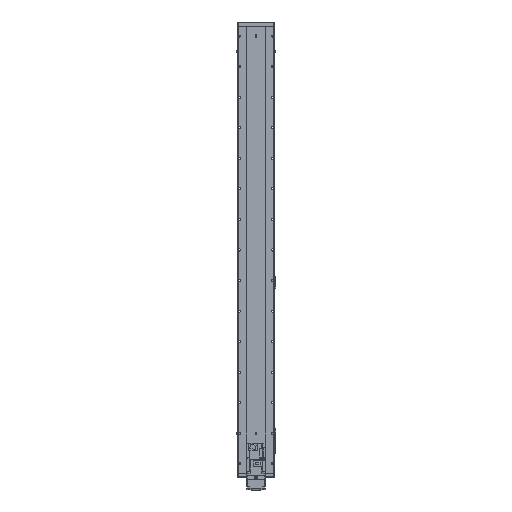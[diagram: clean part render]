
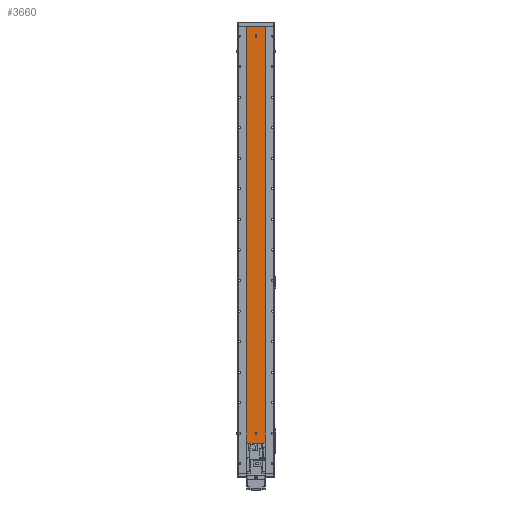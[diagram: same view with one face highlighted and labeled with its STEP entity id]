
A CAD part, front view. The second image highlights one B-rep face of the part: STEP entity #3660.
In plain terms, the highlighted planar face has unit normal (0, -1, 0).
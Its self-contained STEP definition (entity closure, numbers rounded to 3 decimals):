
#94 = EDGE_LOOP ( 'NONE', ( #7472, #35458, #7275, #41760 ) ) ;
#342 = VERTEX_POINT ( 'NONE', #49536 ) ;
#2175 = CARTESIAN_POINT ( 'NONE',  ( 0., 1., 1429. ) ) ;
#2260 = CARTESIAN_POINT ( 'NONE',  ( 0., 1., 130. ) ) ;
#2444 = CARTESIAN_POINT ( 'NONE',  ( 3., 1., 1431. ) ) ;
#2828 = ORIENTED_EDGE ( 'NONE', *, *, #40159, .F. ) ;
#2858 = DIRECTION ( 'NONE',  ( 0., 1., 0. ) ) ;
#3660 = ADVANCED_FACE ( 'NONE', ( #65561, #3954, #33634, #15956 ), #12674, .F. ) ;
#3954 = FACE_BOUND ( 'NONE', #27659, .T. ) ;
#4033 = CARTESIAN_POINT ( 'NONE',  ( -30., 1., 1461. ) ) ;
#4296 = DIRECTION ( 'NONE',  ( 0., -1., 0. ) ) ;
#4476 = DIRECTION ( 'NONE',  ( 0., 0., -1. ) ) ;
#4571 = EDGE_CURVE ( 'NONE', #342, #59576, #23422, .T. ) ;
#5074 = VERTEX_POINT ( 'NONE', #49666 ) ;
#6154 = ORIENTED_EDGE ( 'NONE', *, *, #25433, .F. ) ;
#6650 = CARTESIAN_POINT ( 'NONE',  ( -30., 1., 0. ) ) ;
#6824 = DIRECTION ( 'NONE',  ( 0., 0., -1. ) ) ;
#6912 = VECTOR ( 'NONE', #57232, 1000. ) ;
#7032 = CARTESIAN_POINT ( 'NONE',  ( 30., 1., 1461. ) ) ;
#7082 = AXIS2_PLACEMENT_3D ( 'NONE', #9269, #45354, #66092 ) ;
#7275 = ORIENTED_EDGE ( 'NONE', *, *, #22181, .F. ) ;
#7328 = DIRECTION ( 'NONE',  ( 0., 0., -1. ) ) ;
#7472 = ORIENTED_EDGE ( 'NONE', *, *, #43617, .T. ) ;
#7950 = VERTEX_POINT ( 'NONE', #8039 ) ;
#8039 = CARTESIAN_POINT ( 'NONE',  ( -30., 1., 0. ) ) ;
#8150 = LINE ( 'NONE', #40948, #34723 ) ;
#9269 = CARTESIAN_POINT ( 'NONE',  ( 0., 1., 1429. ) ) ;
#9577 = EDGE_CURVE ( 'NONE', #37982, #33258, #8150, .T. ) ;
#9859 = CARTESIAN_POINT ( 'NONE',  ( 0., 1., 130. ) ) ;
#10232 = DIRECTION ( 'NONE',  ( 0., 0., 1. ) ) ;
#10335 = VECTOR ( 'NONE', #4476, 1000. ) ;
#11483 = ORIENTED_EDGE ( 'NONE', *, *, #55503, .F. ) ;
#12300 = VERTEX_POINT ( 'NONE', #65082 ) ;
#12674 = PLANE ( 'NONE',  #46772 ) ;
#12809 = CIRCLE ( 'NONE', #19300, 3. ) ;
#12924 = DIRECTION ( 'NONE',  ( 0., -1., 0. ) ) ;
#14208 = AXIS2_PLACEMENT_3D ( 'NONE', #9859, #4296, #40351 ) ;
#15804 = EDGE_CURVE ( 'NONE', #33258, #12300, #26462, .T. ) ;
#15956 = FACE_OUTER_BOUND ( 'NONE', #94, .T. ) ;
#17015 = VERTEX_POINT ( 'NONE', #42368 ) ;
#17990 = DIRECTION ( 'NONE',  ( 0., -1., 0. ) ) ;
#18921 = CIRCLE ( 'NONE', #32273, 3. ) ;
#19300 = AXIS2_PLACEMENT_3D ( 'NONE', #2175, #12924, #7328 ) ;
#20481 = ORIENTED_EDGE ( 'NONE', *, *, #57199, .F. ) ;
#22181 = EDGE_CURVE ( 'NONE', #17015, #5074, #25554, .T. ) ;
#22276 = CARTESIAN_POINT ( 'NONE',  ( -3., 1., 1429. ) ) ;
#22635 = DIRECTION ( 'NONE',  ( 0., 0., -1. ) ) ;
#22975 = CARTESIAN_POINT ( 'NONE',  ( 0., 1., 33. ) ) ;
#23328 = VERTEX_POINT ( 'NONE', #22975 ) ;
#23422 = CIRCLE ( 'NONE', #14208, 3. ) ;
#24876 = DIRECTION ( 'NONE',  ( 1., 0., 0. ) ) ;
#25059 = CARTESIAN_POINT ( 'NONE',  ( 0., 1., 127. ) ) ;
#25433 = EDGE_CURVE ( 'NONE', #59576, #342, #40942, .T. ) ;
#25516 = CARTESIAN_POINT ( 'NONE',  ( 0., 1., 27. ) ) ;
#25554 = LINE ( 'NONE', #64863, #44730 ) ;
#25639 = LINE ( 'NONE', #4033, #10335 ) ;
#26462 = CIRCLE ( 'NONE', #28473, 3. ) ;
#27659 = EDGE_LOOP ( 'NONE', ( #6154, #48407 ) ) ;
#28029 = CARTESIAN_POINT ( 'NONE',  ( 30., 1., 0. ) ) ;
#28473 = AXIS2_PLACEMENT_3D ( 'NONE', #32099, #57298, #42124 ) ;
#29431 = CARTESIAN_POINT ( 'NONE',  ( 0., 1., 30. ) ) ;
#30859 = LINE ( 'NONE', #7032, #61933 ) ;
#31373 = VECTOR ( 'NONE', #49514, 1000. ) ;
#32099 = CARTESIAN_POINT ( 'NONE',  ( 0., 1., 1431. ) ) ;
#32273 = AXIS2_PLACEMENT_3D ( 'NONE', #29431, #33911, #34569 ) ;
#33258 = VERTEX_POINT ( 'NONE', #2444 ) ;
#33474 = EDGE_LOOP ( 'NONE', ( #50483, #62305, #20481, #47309, #50673 ) ) ;
#33574 = CARTESIAN_POINT ( 'NONE',  ( -30., 1., 1461. ) ) ;
#33634 = FACE_BOUND ( 'NONE', #64005, .T. ) ;
#33911 = DIRECTION ( 'NONE',  ( 0., -1., 0. ) ) ;
#33919 = CARTESIAN_POINT ( 'NONE',  ( -3., 1., 1429. ) ) ;
#34569 = DIRECTION ( 'NONE',  ( 0., 0., -1. ) ) ;
#34723 = VECTOR ( 'NONE', #10232, 1000. ) ;
#35458 = ORIENTED_EDGE ( 'NONE', *, *, #48119, .F. ) ;
#37646 = DIRECTION ( 'NONE',  ( 0., -1., 0. ) ) ;
#37710 = EDGE_CURVE ( 'NONE', #12300, #64321, #39386, .T. ) ;
#37982 = VERTEX_POINT ( 'NONE', #53619 ) ;
#38054 = DIRECTION ( 'NONE',  ( 0., 0., 1. ) ) ;
#38594 = EDGE_CURVE ( 'NONE', #17015, #7950, #25639, .T. ) ;
#39386 = LINE ( 'NONE', #33919, #31373 ) ;
#40159 = EDGE_CURVE ( 'NONE', #49945, #23328, #18921, .T. ) ;
#40351 = DIRECTION ( 'NONE',  ( 0., 0., -1. ) ) ;
#40942 = CIRCLE ( 'NONE', #62818, 3. ) ;
#40948 = CARTESIAN_POINT ( 'NONE',  ( 3., 1., 1429. ) ) ;
#41760 = ORIENTED_EDGE ( 'NONE', *, *, #38594, .T. ) ;
#42124 = DIRECTION ( 'NONE',  ( 0., 0., -1. ) ) ;
#42368 = CARTESIAN_POINT ( 'NONE',  ( -30., 1., 1461. ) ) ;
#43617 = EDGE_CURVE ( 'NONE', #7950, #45882, #55799, .T. ) ;
#44730 = VECTOR ( 'NONE', #24876, 1000. ) ;
#45354 = DIRECTION ( 'NONE',  ( 0., -1., 0. ) ) ;
#45882 = VERTEX_POINT ( 'NONE', #28029 ) ;
#46772 = AXIS2_PLACEMENT_3D ( 'NONE', #33574, #2858, #38054 ) ;
#47309 = ORIENTED_EDGE ( 'NONE', *, *, #37710, .F. ) ;
#48119 = EDGE_CURVE ( 'NONE', #5074, #45882, #30859, .T. ) ;
#48407 = ORIENTED_EDGE ( 'NONE', *, *, #4571, .F. ) ;
#48978 = VERTEX_POINT ( 'NONE', #59217 ) ;
#49514 = DIRECTION ( 'NONE',  ( 0., 0., -1. ) ) ;
#49536 = CARTESIAN_POINT ( 'NONE',  ( 0., 1., 133. ) ) ;
#49666 = CARTESIAN_POINT ( 'NONE',  ( 30., 1., 1461. ) ) ;
#49945 = VERTEX_POINT ( 'NONE', #25516 ) ;
#50094 = AXIS2_PLACEMENT_3D ( 'NONE', #57954, #37646, #22635 ) ;
#50483 = ORIENTED_EDGE ( 'NONE', *, *, #9577, .F. ) ;
#50673 = ORIENTED_EDGE ( 'NONE', *, *, #15804, .F. ) ;
#53619 = CARTESIAN_POINT ( 'NONE',  ( 3., 1., 1429. ) ) ;
#54579 = EDGE_CURVE ( 'NONE', #48978, #37982, #57083, .T. ) ;
#55503 = EDGE_CURVE ( 'NONE', #23328, #49945, #59398, .T. ) ;
#55799 = LINE ( 'NONE', #6650, #6912 ) ;
#57083 = CIRCLE ( 'NONE', #7082, 3. ) ;
#57199 = EDGE_CURVE ( 'NONE', #64321, #48978, #12809, .T. ) ;
#57232 = DIRECTION ( 'NONE',  ( 1., 0., 0. ) ) ;
#57298 = DIRECTION ( 'NONE',  ( 0., -1., 0. ) ) ;
#57954 = CARTESIAN_POINT ( 'NONE',  ( 0., 1., 30. ) ) ;
#59217 = CARTESIAN_POINT ( 'NONE',  ( 0., 1., 1426. ) ) ;
#59398 = CIRCLE ( 'NONE', #50094, 3. ) ;
#59576 = VERTEX_POINT ( 'NONE', #25059 ) ;
#61933 = VECTOR ( 'NONE', #6824, 1000. ) ;
#62305 = ORIENTED_EDGE ( 'NONE', *, *, #54579, .F. ) ;
#62818 = AXIS2_PLACEMENT_3D ( 'NONE', #2260, #17990, #63763 ) ;
#63763 = DIRECTION ( 'NONE',  ( 0., 0., -1. ) ) ;
#64005 = EDGE_LOOP ( 'NONE', ( #2828, #11483 ) ) ;
#64321 = VERTEX_POINT ( 'NONE', #22276 ) ;
#64863 = CARTESIAN_POINT ( 'NONE',  ( -30., 1., 1461. ) ) ;
#65082 = CARTESIAN_POINT ( 'NONE',  ( -3., 1., 1431. ) ) ;
#65561 = FACE_BOUND ( 'NONE', #33474, .T. ) ;
#66092 = DIRECTION ( 'NONE',  ( 0., 0., -1. ) ) ;
